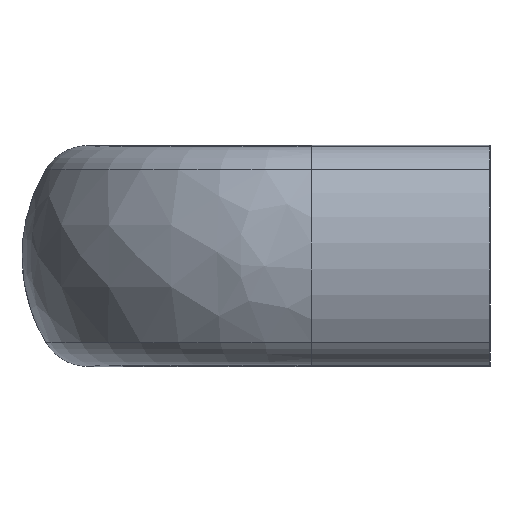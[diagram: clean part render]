
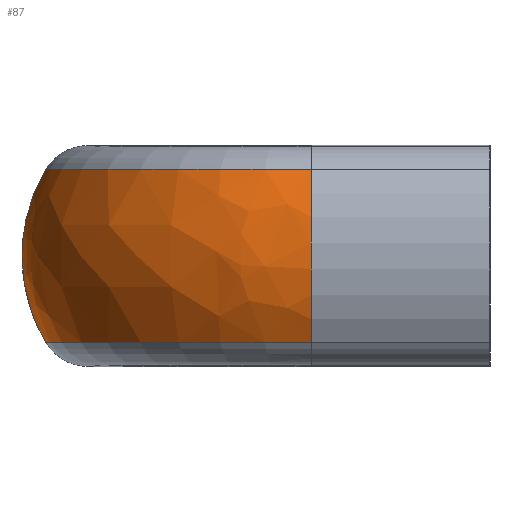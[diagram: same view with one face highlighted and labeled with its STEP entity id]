
A CAD part, left-side view. The second image highlights one B-rep face of the part: STEP entity #87.
In plain terms, the highlighted free-form (B-spline) face has degree [3, 3] with [4, 4] control points.
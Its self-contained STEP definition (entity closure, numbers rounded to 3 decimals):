
#87 = ADVANCED_FACE( '', ( #155 ), #156, .T. );
#155 = FACE_OUTER_BOUND( '', #265, .T. );
#156 = ( BOUNDED_SURFACE(  )B_SPLINE_SURFACE( 3, 3, ( ( #268, #269, #270, #271 ), ( #272, #273, #274, #275 ), ( #276, #277, #278, #279 ), ( #280, #281, #282, #283 ) ), .UNSPECIFIED., .F., .F., .F. )B_SPLINE_SURFACE_WITH_KNOTS( ( 4, 4 ), ( 4, 4 ), ( 1.571, 3.142 ), ( -0.537, 0.537 ), .UNSPECIFIED. )GEOMETRIC_REPRESENTATION_ITEM(  )RATIONAL_B_SPLINE_SURFACE( ( ( 1., 0.805, 0.805, 1. ), ( 0.906, 0.729, 0.729, 0.906 ), ( 0.906, 0.729, 0.729, 0.906 ), ( 1., 0.805, 0.805, 1. ) ) )REPRESENTATION_ITEM( '' )SURFACE(  ) );
#265 = EDGE_LOOP( '', ( #477, #478, #479, #480, #481 ) );
#268 = CARTESIAN_POINT( '', ( -30.5, 52.189, 10.177 ) );
#269 = CARTESIAN_POINT( '', ( -48.77, 52.189, 10.177 ) );
#270 = CARTESIAN_POINT( '', ( -61.689, 39.27, 10.177 ) );
#271 = CARTESIAN_POINT( '', ( -61.689, 21., 10.177 ) );
#272 = CARTESIAN_POINT( '', ( -30.5, 56.02, 3.744 ) );
#273 = CARTESIAN_POINT( '', ( -51.014, 56.02, 3.744 ) );
#274 = CARTESIAN_POINT( '', ( -65.52, 41.514, 3.744 ) );
#275 = CARTESIAN_POINT( '', ( -65.52, 21., 3.744 ) );
#276 = CARTESIAN_POINT( '', ( -30.5, 56.02, -3.744 ) );
#277 = CARTESIAN_POINT( '', ( -51.014, 56.02, -3.744 ) );
#278 = CARTESIAN_POINT( '', ( -65.52, 41.514, -3.744 ) );
#279 = CARTESIAN_POINT( '', ( -65.52, 21., -3.744 ) );
#280 = CARTESIAN_POINT( '', ( -30.5, 52.189, -10.177 ) );
#281 = CARTESIAN_POINT( '', ( -48.77, 52.189, -10.177 ) );
#282 = CARTESIAN_POINT( '', ( -61.689, 39.27, -10.177 ) );
#283 = CARTESIAN_POINT( '', ( -61.689, 21., -10.177 ) );
#477 = ORIENTED_EDGE( '', *, *, #834, .T. );
#478 = ORIENTED_EDGE( '', *, *, #835, .F. );
#479 = ORIENTED_EDGE( '', *, *, #836, .F. );
#480 = ORIENTED_EDGE( '', *, *, #806, .T. );
#481 = ORIENTED_EDGE( '', *, *, #805, .T. );
#805 = EDGE_CURVE( '', #941, #942, #943, .T. );
#806 = EDGE_CURVE( '', #944, #941, #945, .T. );
#834 = EDGE_CURVE( '', #942, #994, #996, .T. );
#835 = EDGE_CURVE( '', #997, #994, #998, .T. );
#836 = EDGE_CURVE( '', #944, #997, #999, .T. );
#941 = VERTEX_POINT( '', #1149 );
#942 = VERTEX_POINT( '', #1150 );
#943 = B_SPLINE_CURVE_WITH_KNOTS( '', 3, ( #1151, #1152, #1153, #1154, #1155, #1156 ), .UNSPECIFIED., .F., .F., ( 4, 2, 4 ), ( 0., 0.5, 1. ), .UNSPECIFIED. );
#944 = VERTEX_POINT( '', #1157 );
#945 = B_SPLINE_CURVE_WITH_KNOTS( '', 3, ( #1158, #1159, #1160, #1161, #1162, #1163 ), .UNSPECIFIED., .F., .F., ( 4, 2, 4 ), ( 0., 0.5, 1. ), .UNSPECIFIED. );
#994 = VERTEX_POINT( '', #1246 );
#996 = CIRCLE( '', #1248, 31.189 );
#997 = VERTEX_POINT( '', #1249 );
#998 = CIRCLE( '', #1250, 19.889 );
#999 = CIRCLE( '', #1251, 31.189 );
#1149 = CARTESIAN_POINT( '', ( -30.5, 54.995, 0.043 ) );
#1150 = CARTESIAN_POINT( '', ( -30.5, 52.189, -10.184 ) );
#1151 = CARTESIAN_POINT( '', ( -30.5, 54.99, 0.043 ) );
#1152 = CARTESIAN_POINT( '', ( -30.5, 54.994, -1.745 ) );
#1153 = CARTESIAN_POINT( '', ( -30.5, 54.755, -3.533 ) );
#1154 = CARTESIAN_POINT( '', ( -30.5, 53.81, -6.981 ) );
#1155 = CARTESIAN_POINT( '', ( -30.5, 53.104, -8.641 ) );
#1156 = CARTESIAN_POINT( '', ( -30.5, 52.189, -10.177 ) );
#1157 = CARTESIAN_POINT( '', ( -30.5, 52.188, 10.185 ) );
#1158 = CARTESIAN_POINT( '', ( -30.5, 52.189, 10.177 ) );
#1159 = CARTESIAN_POINT( '', ( -30.5, 53.097, 8.653 ) );
#1160 = CARTESIAN_POINT( '', ( -30.5, 53.799, 7.008 ) );
#1161 = CARTESIAN_POINT( '', ( -30.5, 54.744, 3.589 ) );
#1162 = CARTESIAN_POINT( '', ( -30.5, 54.986, 1.816 ) );
#1163 = CARTESIAN_POINT( '', ( -30.5, 54.99, 0.043 ) );
#1246 = CARTESIAN_POINT( '', ( -61.689, 21., -10.177 ) );
#1248 = AXIS2_PLACEMENT_3D( '', #1481, #1482, #1483 );
#1249 = CARTESIAN_POINT( '', ( -61.689, 21., 10.177 ) );
#1250 = AXIS2_PLACEMENT_3D( '', #1484, #1485, #1486 );
#1251 = AXIS2_PLACEMENT_3D( '', #1487, #1488, #1489 );
#1481 = CARTESIAN_POINT( '', ( -30.5, 21., -10.177 ) );
#1482 = DIRECTION( '', ( 0., 0., 1. ) );
#1483 = DIRECTION( '', ( 1., 0., 0. ) );
#1484 = CARTESIAN_POINT( '', ( -44.601, 21., 0. ) );
#1485 = DIRECTION( '', ( 0., -1., 0. ) );
#1486 = DIRECTION( '', ( 0., 0., 1. ) );
#1487 = CARTESIAN_POINT( '', ( -30.5, 21., 10.177 ) );
#1488 = DIRECTION( '', ( 0., 0., 1. ) );
#1489 = DIRECTION( '', ( 1., 0., 0. ) );
